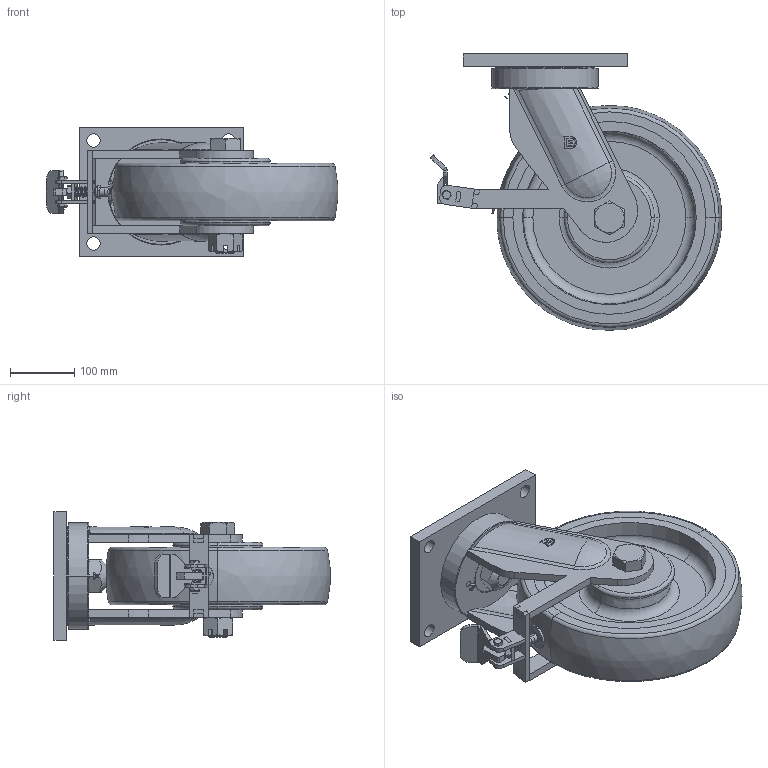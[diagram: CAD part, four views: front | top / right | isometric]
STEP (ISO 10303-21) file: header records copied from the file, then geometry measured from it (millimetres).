
FILE_DESCRIPTION((''),'2;1');
FILE_NAME('PRT0005','2025-09-02T08:50:27',('Administrator'),(''),'CREO PARAMETRIC BY PTC INC, 2022124','CREO PARAMETRIC BY PTC INC, 2022124','');
FILE_SCHEMA(('AUTOMOTIVE_DESIGN { 1 0 10303 214 1 1 1 1 }'));
Length unit declared in the file: millimetre
Products named in the file (1): PRT0005
Bounding box: 452.71 x 429.5 x 200 mm (x, y, z)
Surface area: 706369 mm2 (no closed solid volume)
Topology: 0 solids, 52 shells, 285 faces, 1025 edges, 785 vertices
Faces by surface type: plane 144, cylinder 53, cone 32, bspline 30, torus 26
Entity records: 18127 total; most frequent: CARTESIAN_POINT 7722, DIRECTION 1623, ORIENTED_EDGE 1498, EDGE_CURVE 1025, VERTEX_POINT 785, AXIS2_PLACEMENT_3D 548, VECTOR 524, LINE 524
